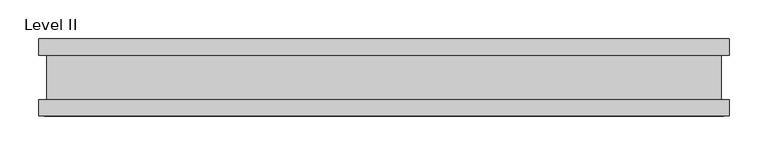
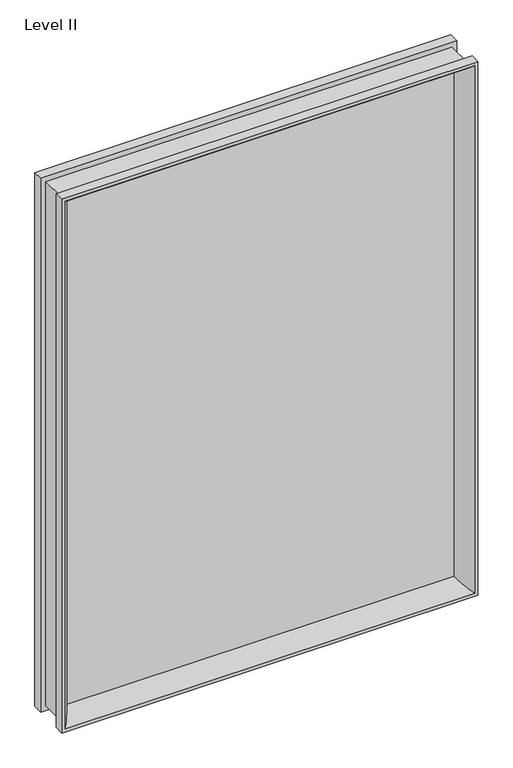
"""IFC4 building model written with IfcOpenShell, lengths in millimetres: proxy geometry, Panel-Fascia-Teknion-Altos-Mid_Glass : Level II."""

from ifc_helpers import new_model, si_unit, frame, origin, place, context, project, spatial, polyline, ellipse_curve, outline, extrude, source, transform, mapped, element, save
from ifc_brep_helpers import plane_surface, cylinder_surface, advanced_brep


def level_ii_6986000c(model_context):
    return source(origin(), model_context, "Body", "SolidModel", [
        advanced_brep(
        [(422.0875675, 5.0827449, 1191.0723332), (440.0424179, 50.0558594, 1209.0271836), (440.0424179, 50.0558594, 10.1728164), (422.0875675, 5.0827449, 28.1276668), (432.5777586, -5.0827449, 1201.5625243), (432.5777586, 5.0827449, 1201.5625243), (432.5777586, 5.0827449, 17.6374757), (432.5777586, -5.0827449, 17.6374757), (440.0424179, -50.0558594, 1209.0271836), (422.0875675, -5.0827449, 1191.0723332), (422.0875675, -5.0827449, 28.1276668), (440.0424179, -50.0558594, 10.1728164), (447.0402343, -28.8801202, 1216.025), (447.0402343, -50.0558594, 1216.025), (447.0402343, -50.0558594, 3.175), (447.0402343, -28.8801202, 3.175), (436.2152344, 28.2698798, 1205.2000001), (436.2152344, -28.8801202, 1205.2000001), (436.2152344, -28.8801202, 13.9999999), (436.2152344, 28.2698798, 13.9999999), (447.0402343, 50.0558594, 1216.025), (447.0402343, 28.2698798, 1216.025), (447.0402343, 28.2698798, 3.175), (447.0402343, 50.0558594, 3.175), (-440.0424179, 50.0558594, 10.1728164), (-422.0875675, 5.0827449, 28.1276668), (-432.5777586, 5.0827449, 17.6374757), (-432.5777586, -5.0827449, 17.6374757), (-422.0875675, -5.0827449, 28.1276668), (-440.0424179, -50.0558594, 10.1728164), (-447.0402343, -50.0558594, 3.175), (-447.0402343, -28.8801202, 3.175), (-436.2152344, -28.8801202, 13.9999999), (-436.2152344, 28.2698798, 13.9999999), (-447.0402343, 28.2698798, 3.175), (-447.0402343, 50.0558594, 3.175), (-440.0424179, 50.0558594, 1209.0271836), (-422.0875675, 5.0827449, 1191.0723332), (-432.5777586, 5.0827449, 1201.5625243), (-432.5777586, -5.0827449, 1201.5625243), (-422.0875675, -5.0827449, 1191.0723332), (-440.0424179, -50.0558594, 1209.0271836), (-447.0402343, -50.0558594, 1216.025), (-447.0402343, -28.8801202, 1216.025), (-436.2152344, -28.8801202, 1205.2000001), (-436.2152344, 28.2698798, 1205.2000001), (-447.0402343, 28.2698798, 1216.025), (-447.0402343, 50.0558594, 1216.025)],
        [
            (0, 1, ellipse_curve(frame((474.1738049, 10.3587469, 1243.1585705), z_axis=(0.7071067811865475, 0.0, -0.7071067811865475), x_axis=(0.7071067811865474, 0.0, 0.7071067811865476)), 74.0379946, 52.352768)),
            (1, 2),
            (2, 3, ellipse_curve(frame((474.1738049, 10.3587469, -23.9585705), z_axis=(0.7071067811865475, 0.0, 0.7071067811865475), x_axis=(-0.7071067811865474, 0.0, 0.7071067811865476)), 74.0379946, 52.352768)),
            (3, 0),
            (4, 5),
            (5, 6),
            (6, 7),
            (7, 4),
            (8, 9, ellipse_curve(frame((474.1738049, -10.3587469, 1243.1585705), z_axis=(0.7071067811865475, 0.0, -0.7071067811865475), x_axis=(0.7071067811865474, 0.0, 0.7071067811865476)), 74.0379946, 52.352768)),
            (9, 10),
            (10, 11, ellipse_curve(frame((474.1738049, -10.3587469, -23.9585705), z_axis=(0.7071067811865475, 0.0, 0.7071067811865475), x_axis=(-0.7071067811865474, 0.0, 0.7071067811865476)), 74.0379946, 52.352768)),
            (11, 8),
            (12, 13),
            (13, 14),
            (14, 15),
            (15, 12),
            (16, 17),
            (17, 18),
            (18, 19),
            (19, 16),
            (20, 21),
            (21, 22),
            (22, 23),
            (23, 20),
            (2, 24),
            (24, 25, ellipse_curve(frame((-474.1738049, 10.3587469, -23.9585705), z_axis=(0.7071067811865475, 0.0, -0.7071067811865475), x_axis=(0.7071067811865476, 0.0, 0.7071067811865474)), 74.0379946, 52.352768)),
            (25, 3),
            (6, 26),
            (26, 27),
            (27, 7),
            (10, 28),
            (28, 29, ellipse_curve(frame((-474.1738049, -10.3587469, -23.9585705), z_axis=(0.7071067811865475, 0.0, -0.7071067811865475), x_axis=(0.7071067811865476, 0.0, 0.7071067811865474)), 74.0379946, 52.352768)),
            (29, 11),
            (14, 30),
            (30, 31),
            (31, 15),
            (18, 32),
            (32, 33),
            (33, 19),
            (22, 34),
            (34, 35),
            (35, 23),
            (24, 36),
            (36, 37, ellipse_curve(frame((-474.1738049, 10.3587469, 1243.1585705), z_axis=(-0.7071067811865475, 0.0, -0.7071067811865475), x_axis=(0.7071067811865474, 0.0, -0.7071067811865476)), 74.0379946, 52.352768)),
            (37, 25),
            (26, 38),
            (38, 39),
            (39, 27),
            (28, 40),
            (40, 41, ellipse_curve(frame((-474.1738049, -10.3587469, 1243.1585705), z_axis=(-0.7071067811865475, 0.0, -0.7071067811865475), x_axis=(0.7071067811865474, 0.0, -0.7071067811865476)), 74.0379946, 52.352768)),
            (41, 29),
            (30, 42),
            (42, 43),
            (43, 31),
            (32, 44),
            (44, 45),
            (45, 33),
            (34, 46),
            (46, 47),
            (47, 35),
            (47, 20),
            (1, 36),
            (0, 37),
            (5, 38),
            (4, 39),
            (9, 40),
            (8, 41),
            (13, 42),
            (12, 43),
            (17, 44),
            (16, 45),
            (21, 46),
        ],
        [
            cylinder_surface(frame((474.1738049, 10.3587469, 1216.025), z_axis=(0.0, 0.0, 1.0), x_axis=(1.0, 0.0, 0.0)), 52.352768),
            plane_surface(frame((432.5777586, 5.0827449, 1201.5625243), z_axis=(-1.0, 0.0, 0.0), x_axis=(0.0, 0.0, -1.0))),
            cylinder_surface(frame((474.1738049, -10.3587469, 1216.025), z_axis=(0.0, 0.0, 1.0), x_axis=(1.0, 0.0, 0.0)), 52.352768),
            plane_surface(frame((447.0402343, -50.0558594, 1216.025), z_axis=(1.0, 0.0, 0.0), x_axis=(0.0, 0.0, -1.0))),
            plane_surface(frame((436.2152344, -28.8801202, 1205.2000001), z_axis=(1.0, 0.0, 0.0), x_axis=(0.0, 0.0, -1.0))),
            plane_surface(frame((447.0402343, 28.2698798, 1216.025), z_axis=(1.0, 0.0, 0.0), x_axis=(0.0, 0.0, -1.0))),
            cylinder_surface(frame((447.0402343, 10.3587469, -23.9585705), z_axis=(1.0, 0.0, 0.0), x_axis=(0.0, 0.0, -1.0)), 52.352768),
            plane_surface(frame((432.5777586, 5.0827449, 17.6374757), z_axis=(0.0, 0.0, 1.0), x_axis=(-1.0, 0.0, 0.0))),
            cylinder_surface(frame((447.0402343, -10.3587469, -23.9585705), z_axis=(1.0, 0.0, 0.0), x_axis=(0.0, 0.0, -1.0)), 52.352768),
            plane_surface(frame((447.0402343, -50.0558594, 3.175), z_axis=(0.0, 0.0, -1.0), x_axis=(-1.0, 0.0, 0.0))),
            plane_surface(frame((436.2152344, -28.8801202, 13.9999999), z_axis=(0.0, 0.0, -1.0), x_axis=(-1.0, 0.0, 0.0))),
            plane_surface(frame((447.0402343, 28.2698798, 3.175), z_axis=(0.0, 0.0, -1.0), x_axis=(-1.0, 0.0, 0.0))),
            cylinder_surface(frame((-474.1738049, 10.3587469, 3.175), z_axis=(0.0, 0.0, -1.0), x_axis=(-1.0, 0.0, 0.0)), 52.352768),
            plane_surface(frame((-432.5777586, 5.0827449, 17.6374757), z_axis=(1.0, 0.0, 0.0), x_axis=(0.0, 0.0, 1.0))),
            cylinder_surface(frame((-474.1738049, -10.3587469, 3.175), z_axis=(0.0, 0.0, -1.0), x_axis=(-1.0, 0.0, 0.0)), 52.352768),
            plane_surface(frame((-447.0402343, -50.0558594, 3.175), z_axis=(-1.0, 0.0, 0.0), x_axis=(0.0, 0.0, 1.0))),
            plane_surface(frame((-436.2152344, -28.8801202, 13.9999999), z_axis=(-1.0, 0.0, 0.0), x_axis=(0.0, 0.0, 1.0))),
            plane_surface(frame((-447.0402343, 28.2698798, 3.175), z_axis=(-1.0, 0.0, 0.0), x_axis=(0.0, 0.0, 1.0))),
            plane_surface(frame((-447.0402343, 50.0558594, 1216.025), z_axis=(0.0, 1.0, 0.0), x_axis=(1.0, 0.0, 0.0))),
            cylinder_surface(frame((-447.0402343, 10.3587469, 1243.1585705), z_axis=(-1.0, 0.0, 0.0), x_axis=(0.0, 0.0, 1.0)), 52.352768),
            plane_surface(frame((-422.0875675, 5.0827449, 1191.0723332), z_axis=(0.0, -1.0, 0.0), x_axis=(1.0, 0.0, 0.0))),
            plane_surface(frame((-432.5777586, 5.0827449, 1201.5625243), z_axis=(0.0, 0.0, -1.0), x_axis=(1.0, 0.0, 0.0))),
            plane_surface(frame((-432.5777586, -5.0827449, 1201.5625243), z_axis=(0.0, 1.0, 0.0), x_axis=(1.0, 0.0, 0.0))),
            cylinder_surface(frame((-447.0402343, -10.3587469, 1243.1585705), z_axis=(-1.0, 0.0, 0.0), x_axis=(0.0, 0.0, 1.0)), 52.352768),
            plane_surface(frame((-440.0424179, -50.0558594, 1209.0271836), z_axis=(0.0, -1.0, 0.0), x_axis=(1.0, 0.0, 0.0))),
            plane_surface(frame((-447.0402343, -50.0558594, 1216.025), z_axis=(0.0, 0.0, 1.0), x_axis=(1.0, 0.0, 0.0))),
            plane_surface(frame((-447.0402343, -28.8801202, 1216.025), z_axis=(0.0, 1.0, 0.0), x_axis=(1.0, 0.0, 0.0))),
            plane_surface(frame((-436.2152344, -28.8801202, 1205.2000001), z_axis=(0.0, 0.0, 1.0), x_axis=(1.0, 0.0, 0.0))),
            plane_surface(frame((-436.2152344, 28.2698798, 1205.2000001), z_axis=(0.0, -1.0, 0.0), x_axis=(1.0, 0.0, 0.0))),
            plane_surface(frame((-447.0402343, 28.2698798, 1216.025), z_axis=(0.0, 0.0, 1.0), x_axis=(1.0, 0.0, 0.0))),
        ],
        [
            (0, [[1, 2, 3, 4]]),
            (1, [[5, 6, 7, 8]]),
            (2, [[9, 10, 11, 12]]),
            (3, [[13, 14, 15, 16]]),
            (4, [[17, 18, 19, 20]]),
            (5, [[21, 22, 23, 24]]),
            (6, [[-3, 25, 26, 27]]),
            (7, [[-7, 28, 29, 30]]),
            (8, [[-11, 31, 32, 33]]),
            (9, [[-15, 34, 35, 36]]),
            (10, [[-19, 37, 38, 39]]),
            (11, [[-23, 40, 41, 42]]),
            (12, [[-26, 43, 44, 45]]),
            (13, [[-29, 46, 47, 48]]),
            (14, [[-32, 49, 50, 51]]),
            (15, [[-35, 52, 53, 54]]),
            (16, [[-38, 55, 56, 57]]),
            (17, [[-41, 58, 59, 60]]),
            (18, [[-42, -60, 61, -24], [62, -43, -25, -2]]),
            (19, [[-44, -62, -1, 63]]),
            (20, [[64, -46, -28, -6], [-27, -45, -63, -4]]),
            (21, [[-47, -64, -5, 65]]),
            (22, [[-30, -48, -65, -8], [66, -49, -31, -10]]),
            (23, [[-50, -66, -9, 67]]),
            (24, [[68, -52, -34, -14], [-33, -51, -67, -12]]),
            (25, [[-53, -68, -13, 69]]),
            (26, [[-36, -54, -69, -16], [70, -55, -37, -18]]),
            (27, [[-56, -70, -17, 71]]),
            (28, [[72, -58, -40, -22], [-39, -57, -71, -20]]),
            (29, [[-59, -72, -21, -61]]),
        ],
    ),
        extrude(outline(polyline([(432.5777586, 2.9765625), (432.5777586, -2.9765625), (-432.5777586, -2.9765625), (-432.5777586, 2.9765625), (432.5777586, 2.9765625)])), frame((0.0, 0.0, 17.6374757), z_axis=(0.0, 0.0, 1.0), x_axis=(1.0, 0.0, 0.0)), (0.0, 0.0, 1.0), 1183.9250485),
    ])


if __name__ == "__main__":
    model = new_model("IFC4")
    model_context = context("Model", 3, world=origin())
    ifc_project = project(units=[si_unit("LENGTHUNIT", "METRE", prefix="MILLI")], contexts=[model_context])
    site = spatial("IfcSite", under=ifc_project)
    building = spatial("IfcBuilding", under=site)
    placement = place(None, origin())
    level_ii_shape = level_ii_6986000c(model_context)
    element("IfcBuildingElementProxy", 1, Name="Panel-Fascia-Teknion-Altos-Mid_Glass : Level II", ObjectType="Panel-Fascia-Teknion-Altos-Mid_Glass : Level II", at=placement, inside=building, context=model_context, shape_type="MappedRepresentation", body=[
        mapped(level_ii_shape, transform((0.0, 0.0, 0.0), x_axis=(1.0, 0.0, 0.0), y_axis=(0.0, 1.0, 0.0), z_axis=(0.0, 0.0, 1.0))),
    ])
    save(model, "model.ifc")
